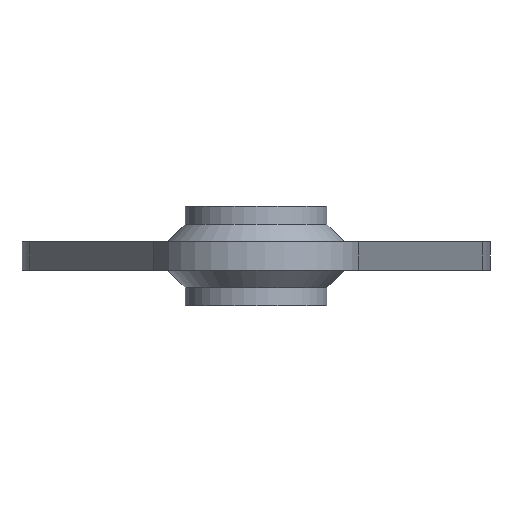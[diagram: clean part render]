
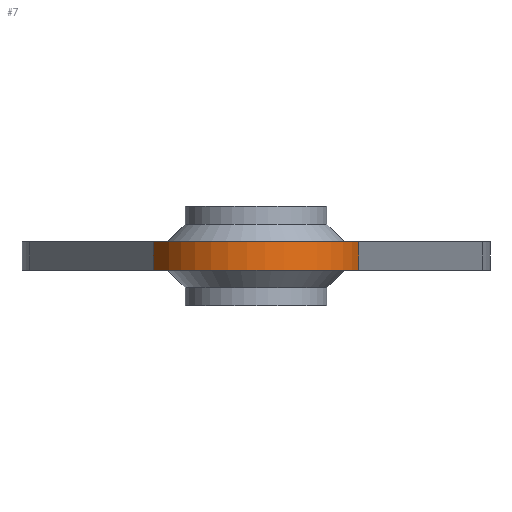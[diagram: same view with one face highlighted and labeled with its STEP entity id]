
A CAD part, front view. The second image highlights one B-rep face of the part: STEP entity #7.
In plain terms, the highlighted cylindrical face has radius 15 mm (diameter 30 mm), a partial arc.
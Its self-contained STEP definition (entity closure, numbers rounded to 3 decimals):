
#7 = ADVANCED_FACE ( 'NONE', ( #2003 ), #2028, .T. ) ;
#98 = ORIENTED_EDGE ( 'NONE', *, *, #1740, .F. ) ;
#99 = ORIENTED_EDGE ( 'NONE', *, *, #1751, .T. ) ;
#100 = ORIENTED_EDGE ( 'NONE', *, *, #1735, .F. ) ;
#102 = ORIENTED_EDGE ( 'NONE', *, *, #1775, .T. ) ;
#159 = VERTEX_POINT ( 'NONE', #740 ) ;
#177 = VERTEX_POINT ( 'NONE', #713 ) ;
#197 = EDGE_LOOP ( 'NONE', ( #102, #100, #99, #98 ) ) ;
#269 = VERTEX_POINT ( 'NONE', #676 ) ;
#367 = VERTEX_POINT ( 'NONE', #662 ) ;
#662 = CARTESIAN_POINT ( 'NONE',  ( -14.496, -73.857, -22.5 ) ) ;
#676 = CARTESIAN_POINT ( 'NONE',  ( 14.496, -73.857, -22.5 ) ) ;
#713 = CARTESIAN_POINT ( 'NONE',  ( 14.496, -73.857, -26.5 ) ) ;
#740 = CARTESIAN_POINT ( 'NONE',  ( -14.496, -73.857, -26.5 ) ) ;
#942 = DIRECTION ( 'NONE',  ( -1., 0., 0. ) ) ;
#1005 = CARTESIAN_POINT ( 'NONE',  ( 0., -70., -26.5 ) ) ;
#1019 = DIRECTION ( 'NONE',  ( 0., 0., -1. ) ) ;
#1176 = CARTESIAN_POINT ( 'NONE',  ( 0., -70., -26.5 ) ) ;
#1177 = DIRECTION ( 'NONE',  ( 0., 0., 1. ) ) ;
#1182 = DIRECTION ( 'NONE',  ( -1., 0., 0. ) ) ;
#1183 = DIRECTION ( 'NONE',  ( 0., 0., -1. ) ) ;
#1184 = CARTESIAN_POINT ( 'NONE',  ( 0., -70., -22.5 ) ) ;
#1210 = DIRECTION ( 'NONE',  ( -1., 0., 0. ) ) ;
#1298 = DIRECTION ( 'NONE',  ( 0., 0., 1. ) ) ;
#1302 = DIRECTION ( 'NONE',  ( 0., 0., -1. ) ) ;
#1304 = CARTESIAN_POINT ( 'NONE',  ( 14.496, -73.857, -26.5 ) ) ;
#1320 = CARTESIAN_POINT ( 'NONE',  ( -14.496, -73.857, -26.5 ) ) ;
#1530 = AXIS2_PLACEMENT_3D ( 'NONE', #1184, #1183, #1182 ) ;
#1598 = AXIS2_PLACEMENT_3D ( 'NONE', #1176, #1177, #1210 ) ;
#1686 = AXIS2_PLACEMENT_3D ( 'NONE', #1005, #1019, #942 ) ;
#1735 = EDGE_CURVE ( 'NONE', #269, #177, #1863, .T. ) ;
#1740 = EDGE_CURVE ( 'NONE', #159, #367, #1875, .T. ) ;
#1751 = EDGE_CURVE ( 'NONE', #269, #367, #1867, .T. ) ;
#1775 = EDGE_CURVE ( 'NONE', #159, #177, #1967, .T. ) ;
#1859 = VECTOR ( 'NONE', #1302, 1000. ) ;
#1863 = LINE ( 'NONE', #1304, #1859 ) ;
#1867 = CIRCLE ( 'NONE', #1530, 15. ) ;
#1872 = VECTOR ( 'NONE', #1298, 1000. ) ;
#1875 = LINE ( 'NONE', #1320, #1872 ) ;
#1967 = CIRCLE ( 'NONE', #1598, 15. ) ;
#2003 = FACE_OUTER_BOUND ( 'NONE', #197, .T. ) ;
#2028 = CYLINDRICAL_SURFACE ( 'NONE', #1686, 15. ) ;
